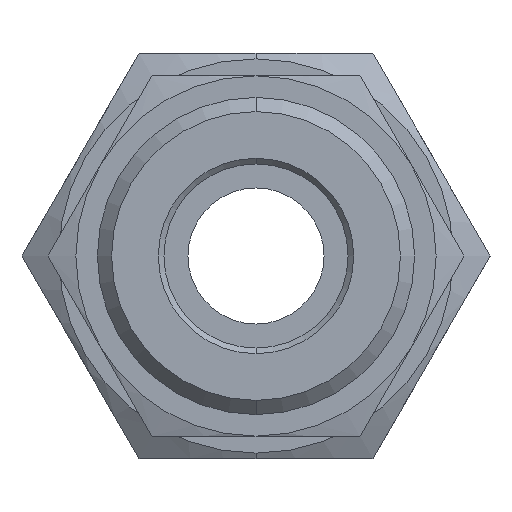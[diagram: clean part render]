
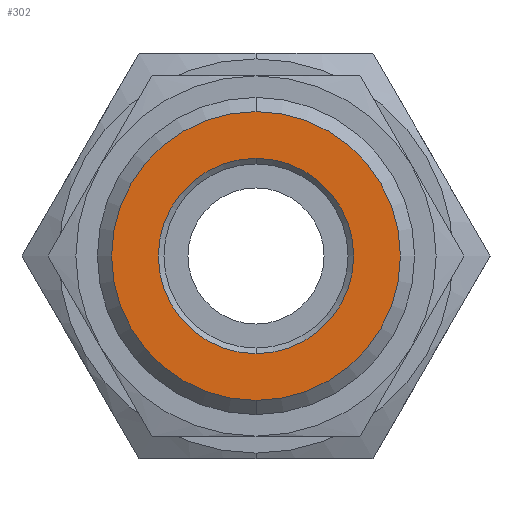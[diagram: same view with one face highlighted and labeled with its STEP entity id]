
A CAD part, left-side view. The second image highlights one B-rep face of the part: STEP entity #302.
In plain terms, the highlighted planar face has unit normal (-1, 0, 0).
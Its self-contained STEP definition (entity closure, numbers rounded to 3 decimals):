
#301 = EDGE_CURVE ( 'NONE', #1651, #1654, #824, .T. ) ;
#302 = ADVANCED_FACE ( 'NONE', ( #819, #730 ), #825, .T. ) ;
#303 = EDGE_LOOP ( 'NONE', ( #304, #305 ) ) ;
#304 = ORIENTED_EDGE ( 'NONE', *, *, #1653, .T. ) ;
#305 = ORIENTED_EDGE ( 'NONE', *, *, #301, .T. ) ;
#306 = EDGE_LOOP ( 'NONE', ( #307, #309 ) ) ;
#307 = ORIENTED_EDGE ( 'NONE', *, *, #308, .T. ) ;
#308 = EDGE_CURVE ( 'NONE', #1668, #1667, #728, .T. ) ;
#309 = ORIENTED_EDGE ( 'NONE', *, *, #1666, .T. ) ;
#721 = DIRECTION ( 'NONE',  ( 0., 0., 1. ) ) ;
#722 = DIRECTION ( 'NONE',  ( -1., 0., 0. ) ) ;
#723 = CARTESIAN_POINT ( 'NONE',  ( -10.4, 0., 0. ) ) ;
#724 = AXIS2_PLACEMENT_3D ( 'NONE', #723, #722, #721 ) ;
#725 = DIRECTION ( 'NONE',  ( 0., 0., 1. ) ) ;
#726 = DIRECTION ( 'NONE',  ( -1., 0., 0. ) ) ;
#727 = CARTESIAN_POINT ( 'NONE',  ( -10.4, 0., 0. ) ) ;
#728 = CIRCLE ( 'NONE', #724, 5.09 ) ;
#729 = AXIS2_PLACEMENT_3D ( 'NONE', #727, #726, #725 ) ;
#730 = FACE_OUTER_BOUND ( 'NONE', #306, .T. ) ;
#819 = FACE_BOUND ( 'NONE', #303, .T. ) ;
#820 = DIRECTION ( 'NONE',  ( 0., 0., 1. ) ) ;
#821 = DIRECTION ( 'NONE',  ( 1., 0., 0. ) ) ;
#822 = CARTESIAN_POINT ( 'NONE',  ( -10.4, 0., 0. ) ) ;
#823 = AXIS2_PLACEMENT_3D ( 'NONE', #822, #821, #820 ) ;
#824 = CIRCLE ( 'NONE', #823, 3.445 ) ;
#825 = PLANE ( 'NONE',  #729 ) ;
#1413 = CARTESIAN_POINT ( 'NONE',  ( -10.4, 0., 3.445 ) ) ;
#1414 = DIRECTION ( 'NONE',  ( 0., 0., 1. ) ) ;
#1415 = DIRECTION ( 'NONE',  ( 1., 0., 0. ) ) ;
#1416 = CARTESIAN_POINT ( 'NONE',  ( -10.4, 0., 0. ) ) ;
#1417 = AXIS2_PLACEMENT_3D ( 'NONE', #1416, #1415, #1414 ) ;
#1418 = CIRCLE ( 'NONE', #1417, 3.445 ) ;
#1419 = CARTESIAN_POINT ( 'NONE',  ( -10.4, 0., -3.445 ) ) ;
#1525 = CARTESIAN_POINT ( 'NONE',  ( -10.4, 0., -5.09 ) ) ;
#1526 = CARTESIAN_POINT ( 'NONE',  ( -10.4, 0., 5.09 ) ) ;
#1527 = DIRECTION ( 'NONE',  ( 0., 0., 1. ) ) ;
#1528 = DIRECTION ( 'NONE',  ( -1., 0., 0. ) ) ;
#1529 = CARTESIAN_POINT ( 'NONE',  ( -10.4, 0., 0. ) ) ;
#1530 = AXIS2_PLACEMENT_3D ( 'NONE', #1529, #1528, #1527 ) ;
#1531 = CIRCLE ( 'NONE', #1530, 5.09 ) ;
#1651 = VERTEX_POINT ( 'NONE', #1419 ) ;
#1653 = EDGE_CURVE ( 'NONE', #1654, #1651, #1418, .T. ) ;
#1654 = VERTEX_POINT ( 'NONE', #1413 ) ;
#1666 = EDGE_CURVE ( 'NONE', #1667, #1668, #1531, .T. ) ;
#1667 = VERTEX_POINT ( 'NONE', #1526 ) ;
#1668 = VERTEX_POINT ( 'NONE', #1525 ) ;
